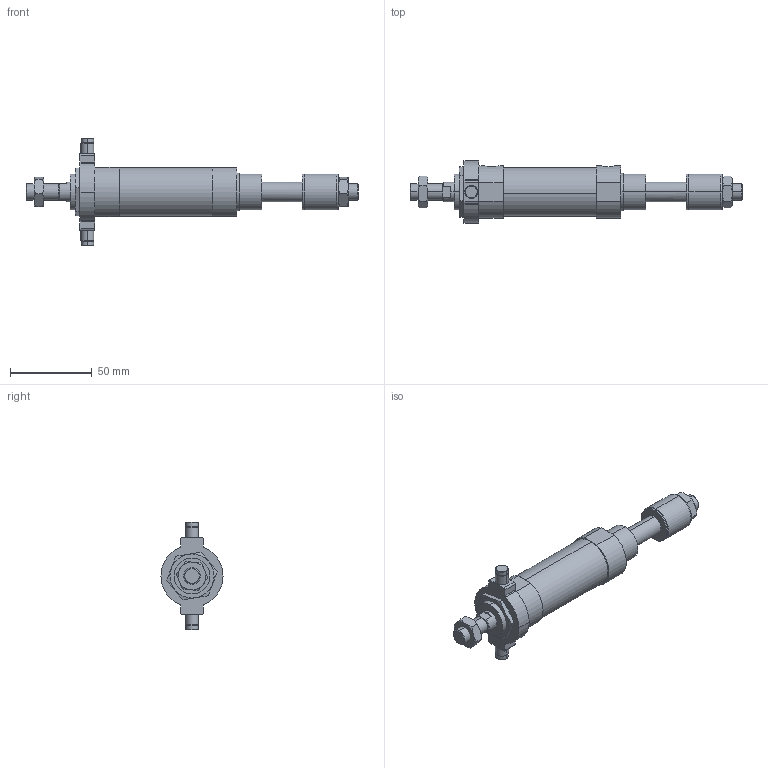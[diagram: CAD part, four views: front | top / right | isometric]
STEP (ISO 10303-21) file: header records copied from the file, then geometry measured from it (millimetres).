
FILE_DESCRIPTION (( 'STEP AP203' ), '1' );
FILE_NAME ('JGA7-25-25-T.STEP', '2016-04-20T01:56:37', ( '' ), ( '' ), 'SwSTEP 2.0', 'SolidWorks 2014', '' );
FILE_SCHEMA (( 'CONFIG_CONTROL_DESIGN' ));
Length unit declared in the file: millimetre
Products named in the file (8): M10x1.5-6mm; JGA7-25A-25; 25-25; J#2-25-T; JGA7-25-25-T; JGLH2-25B; M22x1.5-3mm; JGA7-25-Turn
Assembly tree (8 placements, depth 2):
  JGA7-25-25-T
    JGLH2-25B
    25-25
    JGA7-25A-25
    M10x1.5-6mm  x2
    M22x1.5-3mm
    J#2-25-T
    JGA7-25-Turn
Bounding box: 203 x 38 x 66 mm (x, y, z)
Volume: 98874.7 mm3; surface area: 28867.1 mm2
Topology: 8 solids, 8 shells, 188 faces, 417 edges, 254 vertices
Faces by surface type: plane 67, cylinder 63, torus 38, cone 20
Entity records: 5773 total; most frequent: CARTESIAN_POINT 1204, DIRECTION 825, ORIENTED_EDGE 730, EDGE_CURVE 365, AXIS2_PLACEMENT_3D 343, VERTEX_POINT 226, EDGE_LOOP 187, FACE_OUTER_BOUND 166
